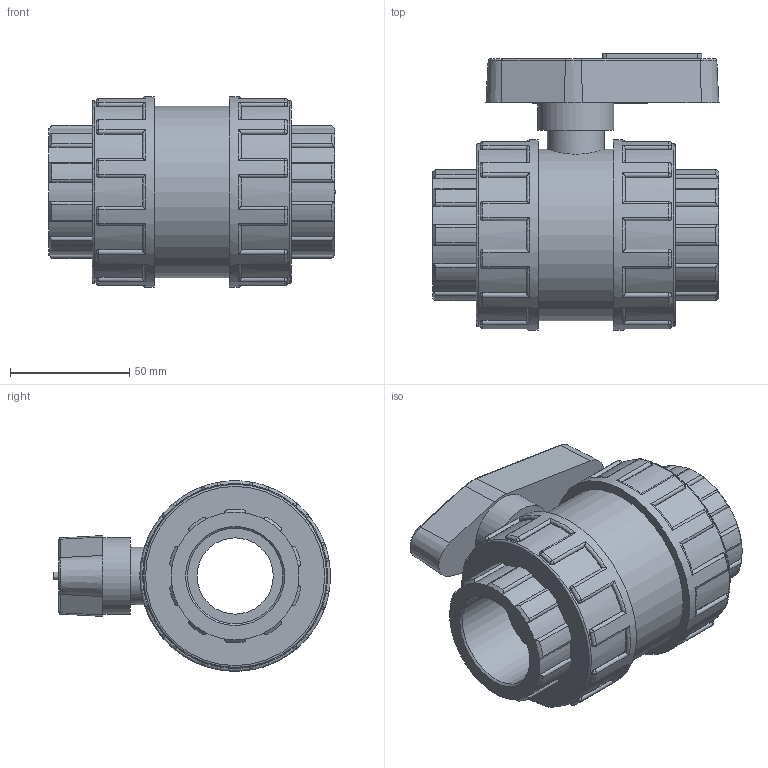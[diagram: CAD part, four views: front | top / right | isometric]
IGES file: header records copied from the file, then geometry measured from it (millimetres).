
Global section: file name: 11240040.ipt; native system: Autodesk Inventor 2015; preprocessor: unknown; author: KIM; date: 20171207.170248; units: millimetre
Bounding box: 120.14 x 116.22 x 80 mm (x, y, z)
Volume: 399996.3 mm3; surface area: 60374.5 mm2
Topology: 1 solids, 1 shells, 434 faces, 1085 edges, 662 vertices
Faces by surface type: cylinder 189, plane 114, revolution 59, sphere 48, cone 24
Full cylindrical faces by diameter (mm): 24 x1, 32 x1, 72 x1, 76.8 x2, 80 x2
